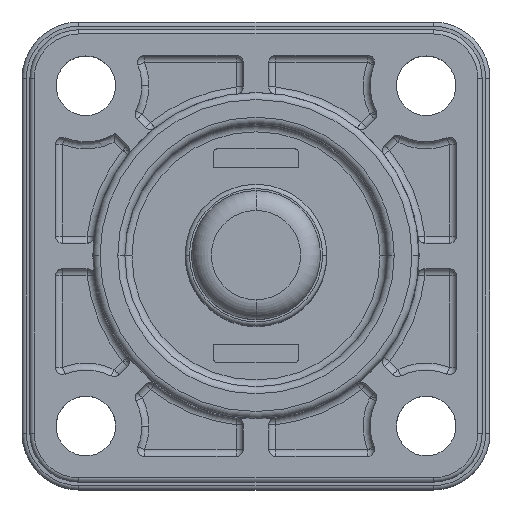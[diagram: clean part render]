
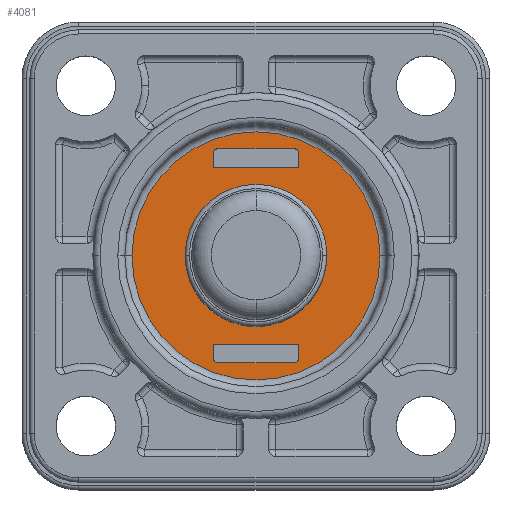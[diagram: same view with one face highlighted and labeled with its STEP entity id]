
A CAD part, top view. The second image highlights one B-rep face of the part: STEP entity #4081.
In plain terms, the highlighted planar face has unit normal (0, 0, 1).
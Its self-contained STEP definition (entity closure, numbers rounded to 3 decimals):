
#30 = CARTESIAN_POINT ( 'NONE',  ( 0.522, -8.182, 0.25 ) ) ;
#36 = DIRECTION ( 'NONE',  ( 0., -1., 0. ) ) ;
#125 = CARTESIAN_POINT ( 'NONE',  ( 6.222, 5.318, 0.25 ) ) ;
#134 = DIRECTION ( 'NONE',  ( 0., 0., 1. ) ) ;
#137 = DIRECTION ( 'NONE',  ( -1., 0., 0. ) ) ;
#150 = DIRECTION ( 'NONE',  ( 0., 0., 1. ) ) ;
#161 = DIRECTION ( 'NONE',  ( 1., 0., 0. ) ) ;
#188 = CARTESIAN_POINT ( 'NONE',  ( 3.522, -1.932, 0.25 ) ) ;
#191 = DIRECTION ( 'NONE',  ( -1., 0., 0. ) ) ;
#195 = CARTESIAN_POINT ( 'NONE',  ( 0.822, 5.618, 0.25 ) ) ;
#197 = LINE ( 'NONE', #195, #2243 ) ;
#237 = LINE ( 'NONE', #30, #2063 ) ;
#258 = EDGE_CURVE ( 'NONE', #3633, #3558, #1336, .T. ) ;
#317 = EDGE_CURVE ( 'NONE', #3685, #3829, #6224, .T. ) ;
#341 = EDGE_CURVE ( 'NONE', #3829, #3633, #8797, .T. ) ;
#348 = EDGE_CURVE ( 'NONE', #3831, #3685, #8716, .T. ) ;
#353 = EDGE_CURVE ( 'NONE', #3636, #3468, #8821, .T. ) ;
#388 = EDGE_CURVE ( 'NONE', #3832, #3476, #197, .T. ) ;
#390 = EDGE_CURVE ( 'NONE', #3505, #3656, #6155, .T. ) ;
#427 = EDGE_CURVE ( 'NONE', #3406, #3832, #6324, .T. ) ;
#429 = EDGE_CURVE ( 'NONE', #3558, #3683, #237, .T. ) ;
#447 = EDGE_CURVE ( 'NONE', #3669, #3509, #6188, .T. ) ;
#477 = EDGE_CURVE ( 'NONE', #3468, #3532, #1950, .T. ) ;
#488 = EDGE_CURVE ( 'NONE', #3532, #3406, #2003, .T. ) ;
#537 = EDGE_CURVE ( 'NONE', #3683, #3831, #6284, .T. ) ;
#573 = EDGE_CURVE ( 'NONE', #3656, #3505, #6150, .T. ) ;
#581 = EDGE_CURVE ( 'NONE', #3476, #3636, #10178, .T. ) ;
#591 = EDGE_CURVE ( 'NONE', #3509, #3669, #10280, .T. ) ;
#1312 = CARTESIAN_POINT ( 'NONE',  ( 6.675, -8.182, 0.25 ) ) ;
#1315 = DIRECTION ( 'NONE',  ( -1., 0., 0. ) ) ;
#1336 = LINE ( 'NONE', #1312, #2256 ) ;
#1470 = EDGE_LOOP ( 'NONE', ( #9812, #8046, #9783, #8405, #8045, #8047 ) ) ;
#1815 = DIRECTION ( 'NONE',  ( 0., 0., 1. ) ) ;
#1834 = CARTESIAN_POINT ( 'NONE',  ( 3.522, -1.932, 0.25 ) ) ;
#1877 = DIRECTION ( 'NONE',  ( -1., 0., 0. ) ) ;
#1934 = CARTESIAN_POINT ( 'NONE',  ( 6.522, 4.318, 0.25 ) ) ;
#1935 = DIRECTION ( 'NONE',  ( 1., 0., 0. ) ) ;
#1936 = DIRECTION ( 'NONE',  ( 0., 1., 0. ) ) ;
#1950 = LINE ( 'NONE', #1956, #6766 ) ;
#1956 = CARTESIAN_POINT ( 'NONE',  ( 6.675, 4.318, 0.25 ) ) ;
#2003 = LINE ( 'NONE', #1934, #6791 ) ;
#2063 = VECTOR ( 'NONE', #36, 1000. ) ;
#2100 = VECTOR ( 'NONE', #8715, 1000. ) ;
#2151 = AXIS2_PLACEMENT_3D ( 'NONE', #8788, #8818, #8761 ) ;
#2202 = VECTOR ( 'NONE', #8752, 1000. ) ;
#2205 = AXIS2_PLACEMENT_3D ( 'NONE', #188, #150, #161 ) ;
#2243 = VECTOR ( 'NONE', #191, 1000. ) ;
#2256 = VECTOR ( 'NONE', #1315, 1000. ) ;
#2271 = AXIS2_PLACEMENT_3D ( 'NONE', #125, #134, #137 ) ;
#2281 = VECTOR ( 'NONE', #8727, 1000. ) ;
#2967 = PLANE ( 'NONE',  #6362 ) ;
#2968 = CARTESIAN_POINT ( 'NONE',  ( 3.522, -1.932, 0.25 ) ) ;
#2969 = DIRECTION ( 'NONE',  ( 0., 0., 1. ) ) ;
#2970 = DIRECTION ( 'NONE',  ( -1., 0., 0. ) ) ;
#3406 = VERTEX_POINT ( 'NONE', #5003 ) ;
#3468 = VERTEX_POINT ( 'NONE', #5065 ) ;
#3476 = VERTEX_POINT ( 'NONE', #5073 ) ;
#3505 = VERTEX_POINT ( 'NONE', #5102 ) ;
#3509 = VERTEX_POINT ( 'NONE', #5106 ) ;
#3532 = VERTEX_POINT ( 'NONE', #5129 ) ;
#3558 = VERTEX_POINT ( 'NONE', #5155 ) ;
#3633 = VERTEX_POINT ( 'NONE', #5230 ) ;
#3636 = VERTEX_POINT ( 'NONE', #5233 ) ;
#3656 = VERTEX_POINT ( 'NONE', #5253 ) ;
#3669 = VERTEX_POINT ( 'NONE', #5266 ) ;
#3683 = VERTEX_POINT ( 'NONE', #5280 ) ;
#3685 = VERTEX_POINT ( 'NONE', #5282 ) ;
#3829 = VERTEX_POINT ( 'NONE', #5426 ) ;
#3831 = VERTEX_POINT ( 'NONE', #5428 ) ;
#3832 = VERTEX_POINT ( 'NONE', #5429 ) ;
#4081 = ADVANCED_FACE ( 'NONE', ( #6569, #6350, #6594, #6562 ), #2967, .T. ) ;
#5003 = CARTESIAN_POINT ( 'NONE',  ( 6.522, 5.318, 0.25 ) ) ;
#5065 = CARTESIAN_POINT ( 'NONE',  ( 0.522, 4.318, 0.25 ) ) ;
#5073 = CARTESIAN_POINT ( 'NONE',  ( 0.822, 5.618, 0.25 ) ) ;
#5102 = CARTESIAN_POINT ( 'NONE',  ( -5.228, -1.932, 0.25 ) ) ;
#5106 = CARTESIAN_POINT ( 'NONE',  ( -1.478, -1.932, 0.25 ) ) ;
#5129 = CARTESIAN_POINT ( 'NONE',  ( 6.522, 4.318, 0.25 ) ) ;
#5155 = CARTESIAN_POINT ( 'NONE',  ( 0.522, -8.182, 0.25 ) ) ;
#5230 = CARTESIAN_POINT ( 'NONE',  ( 6.522, -8.182, 0.25 ) ) ;
#5233 = CARTESIAN_POINT ( 'NONE',  ( 0.522, 5.318, 0.25 ) ) ;
#5253 = CARTESIAN_POINT ( 'NONE',  ( 12.272, -1.932, 0.25 ) ) ;
#5266 = CARTESIAN_POINT ( 'NONE',  ( 8.522, -1.932, 0.25 ) ) ;
#5280 = CARTESIAN_POINT ( 'NONE',  ( 0.522, -9.182, 0.25 ) ) ;
#5282 = CARTESIAN_POINT ( 'NONE',  ( 6.222, -9.482, 0.25 ) ) ;
#5426 = CARTESIAN_POINT ( 'NONE',  ( 6.522, -9.182, 0.25 ) ) ;
#5428 = CARTESIAN_POINT ( 'NONE',  ( 0.822, -9.482, 0.25 ) ) ;
#5429 = CARTESIAN_POINT ( 'NONE',  ( 6.222, 5.618, 0.25 ) ) ;
#5518 = CARTESIAN_POINT ( 'NONE',  ( 0.822, -9.182, 0.25 ) ) ;
#5522 = DIRECTION ( 'NONE',  ( 0., 0., 1. ) ) ;
#5523 = DIRECTION ( 'NONE',  ( 1., 0., 0. ) ) ;
#5632 = CARTESIAN_POINT ( 'NONE',  ( 3.522, -1.932, 0.25 ) ) ;
#5633 = DIRECTION ( 'NONE',  ( 0., 0., 1. ) ) ;
#5634 = DIRECTION ( 'NONE',  ( 1., 0., 0. ) ) ;
#5657 = CARTESIAN_POINT ( 'NONE',  ( 0.822, 5.318, 0.25 ) ) ;
#5658 = DIRECTION ( 'NONE',  ( 0., 0., 1. ) ) ;
#5659 = DIRECTION ( 'NONE',  ( -1., 0., 0. ) ) ;
#5680 = CARTESIAN_POINT ( 'NONE',  ( 3.522, -1.932, 0.25 ) ) ;
#5690 = DIRECTION ( 'NONE',  ( 0., 0., 1. ) ) ;
#5691 = DIRECTION ( 'NONE',  ( -1., 0., 0. ) ) ;
#6150 = CIRCLE ( 'NONE', #6882, 8.75 ) ;
#6155 = CIRCLE ( 'NONE', #2205, 8.75 ) ;
#6188 = CIRCLE ( 'NONE', #6990, 5. ) ;
#6224 = CIRCLE ( 'NONE', #2151, 0.3 ) ;
#6284 = CIRCLE ( 'NONE', #6985, 0.3 ) ;
#6324 = CIRCLE ( 'NONE', #2271, 0.3 ) ;
#6350 = FACE_BOUND ( 'NONE', #7639, .T. ) ;
#6362 = AXIS2_PLACEMENT_3D ( 'NONE', #2968, #2969, #2970 ) ;
#6562 = FACE_OUTER_BOUND ( 'NONE', #7510, .T. ) ;
#6569 = FACE_BOUND ( 'NONE', #1470, .T. ) ;
#6594 = FACE_BOUND ( 'NONE', #7442, .T. ) ;
#6766 = VECTOR ( 'NONE', #1935, 1000. ) ;
#6791 = VECTOR ( 'NONE', #1936, 1000. ) ;
#6882 = AXIS2_PLACEMENT_3D ( 'NONE', #5632, #5633, #5634 ) ;
#6895 = AXIS2_PLACEMENT_3D ( 'NONE', #5680, #5690, #5691 ) ;
#6985 = AXIS2_PLACEMENT_3D ( 'NONE', #5518, #5522, #5523 ) ;
#6990 = AXIS2_PLACEMENT_3D ( 'NONE', #1834, #1815, #1877 ) ;
#7189 = AXIS2_PLACEMENT_3D ( 'NONE', #5657, #5658, #5659 ) ;
#7442 = EDGE_LOOP ( 'NONE', ( #8148, #9602 ) ) ;
#7510 = EDGE_LOOP ( 'NONE', ( #8406, #9922 ) ) ;
#7639 = EDGE_LOOP ( 'NONE', ( #8189, #10007, #8499, #10048, #8150, #9681 ) ) ;
#8045 = ORIENTED_EDGE ( 'NONE', *, *, #388, .F. ) ;
#8046 = ORIENTED_EDGE ( 'NONE', *, *, #477, .F. ) ;
#8047 = ORIENTED_EDGE ( 'NONE', *, *, #427, .F. ) ;
#8148 = ORIENTED_EDGE ( 'NONE', *, *, #447, .F. ) ;
#8150 = ORIENTED_EDGE ( 'NONE', *, *, #537, .F. ) ;
#8189 = ORIENTED_EDGE ( 'NONE', *, *, #258, .F. ) ;
#8405 = ORIENTED_EDGE ( 'NONE', *, *, #581, .F. ) ;
#8406 = ORIENTED_EDGE ( 'NONE', *, *, #573, .T. ) ;
#8499 = ORIENTED_EDGE ( 'NONE', *, *, #317, .F. ) ;
#8636 = CARTESIAN_POINT ( 'NONE',  ( 0.822, -9.482, 0.25 ) ) ;
#8715 = DIRECTION ( 'NONE',  ( 0., -1., 0. ) ) ;
#8716 = LINE ( 'NONE', #8636, #2202 ) ;
#8720 = CARTESIAN_POINT ( 'NONE',  ( 0.522, 4.318, 0.25 ) ) ;
#8727 = DIRECTION ( 'NONE',  ( 0., 1., 0. ) ) ;
#8743 = CARTESIAN_POINT ( 'NONE',  ( 6.522, -8.182, 0.25 ) ) ;
#8752 = DIRECTION ( 'NONE',  ( 1., 0., 0. ) ) ;
#8761 = DIRECTION ( 'NONE',  ( 1., 0., 0. ) ) ;
#8788 = CARTESIAN_POINT ( 'NONE',  ( 6.222, -9.182, 0.25 ) ) ;
#8797 = LINE ( 'NONE', #8743, #2281 ) ;
#8818 = DIRECTION ( 'NONE',  ( 0., 0., 1. ) ) ;
#8821 = LINE ( 'NONE', #8720, #2100 ) ;
#9602 = ORIENTED_EDGE ( 'NONE', *, *, #591, .F. ) ;
#9681 = ORIENTED_EDGE ( 'NONE', *, *, #429, .F. ) ;
#9783 = ORIENTED_EDGE ( 'NONE', *, *, #353, .F. ) ;
#9812 = ORIENTED_EDGE ( 'NONE', *, *, #488, .F. ) ;
#9922 = ORIENTED_EDGE ( 'NONE', *, *, #390, .T. ) ;
#10007 = ORIENTED_EDGE ( 'NONE', *, *, #341, .F. ) ;
#10048 = ORIENTED_EDGE ( 'NONE', *, *, #348, .F. ) ;
#10178 = CIRCLE ( 'NONE', #7189, 0.3 ) ;
#10280 = CIRCLE ( 'NONE', #6895, 5. ) ;
